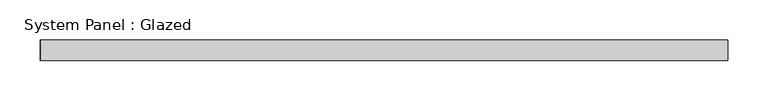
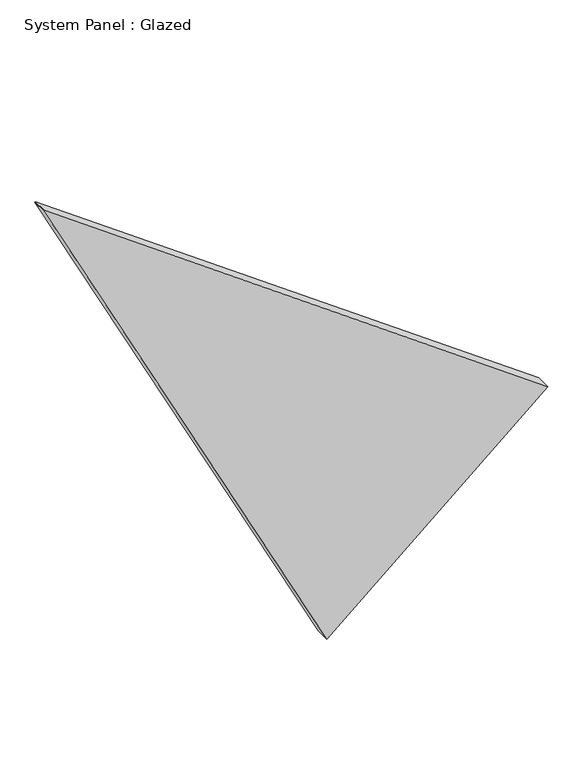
"""IFC4 building model written with IfcOpenShell, lengths in millimetres: plate geometry, System Panel : Glazed."""

from ifc_helpers import new_model, si_unit, frame, origin, place, context, project, spatial, polyline, outline, extrude, source, transform, mapped, element, save


def system_panel_glazed_d0db6324(model_context):
    return source(origin(), model_context, "Body", "SweptSolid", [
        extrude(outline(polyline([(0.0, 52.9203614), (322.055287, 427.3682703), (936.9952118, -426.46048), (936.2144393, -427.3682703), (0.0, 52.9203614)])), frame((0.0, -44.45, 0.0), z_axis=(0.0, 1.0, 0.0), x_axis=(0.0, 0.0, 1.0)), (0.0, 0.0, 1.0), 25.4),
    ])


if __name__ == "__main__":
    model = new_model("IFC4")
    model_context = context("Model", 3, world=origin())
    ifc_project = project(units=[si_unit("LENGTHUNIT", "METRE", prefix="MILLI")], contexts=[model_context])
    site = spatial("IfcSite", under=ifc_project)
    building = spatial("IfcBuilding", under=site)
    placement = place(None, origin())
    system_panel_glazed_shape = system_panel_glazed_d0db6324(model_context)
    element("IfcPlate", 1, ObjectType="System Panel : Glazed", at=placement, inside=building, context=model_context, shape_type="MappedRepresentation", body=[
        mapped(system_panel_glazed_shape, transform((0.0, 0.0, 0.0), x_axis=(1.0, 0.0, 0.0), y_axis=(0.0, 1.0, 0.0), z_axis=(0.0, 0.0, 1.0))),
    ])
    save(model, "model.ifc")
